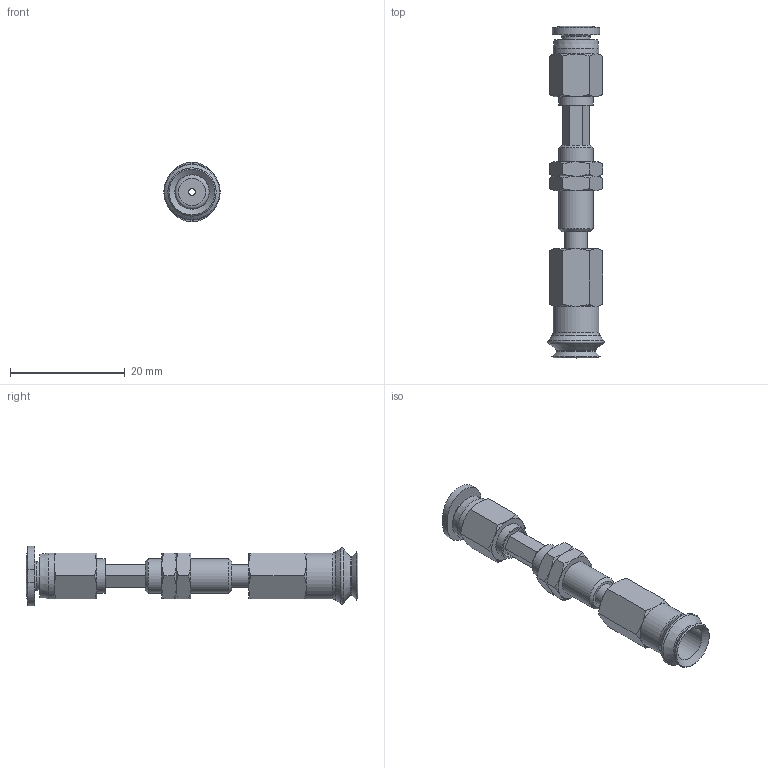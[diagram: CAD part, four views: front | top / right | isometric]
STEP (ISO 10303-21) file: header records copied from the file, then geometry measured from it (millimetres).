
FILE_DESCRIPTION(('STEP AP203'),'1');
FILE_NAME('-O.stp','2025-08-27T07:22:48',(' '),(' '),'Spatial InterOp 3D',' ',' ');
FILE_SCHEMA(('CONFIG_CONTROL_DESIGN'));
Length unit declared in the file: millimetre
Products named in the file (7): BNABPJTS-8-3-※-O; ADAPTER; NAPCTS-7-3-MBODY; NUT-NAPJ-8-3-s; NAPJTS-8-3-FBODY; BPJG-8-※; PC-C_04-M3
Assembly tree (7 placements, depth 2):
  BNABPJTS-8-3-※-O
    ADAPTER
    NAPCTS-7-3-MBODY
    NUT-NAPJ-8-3-s  x2
    NAPJTS-8-3-FBODY
    BPJG-8-※
    PC-C_04-M3
Bounding box: 9.8 x 57.77 x 10.4 mm (x, y, z)
Volume: 1533.4 mm3; surface area: 3037.9 mm2
Topology: 6 solids, 8 shells, 165 faces, 340 edges, 201 vertices
Faces by surface type: cone 65, plane 62, cylinder 22, torus 9, bspline 4, revolution 3
Full cylindrical faces by diameter (mm): 1.2 x2, 2.459 x1, 2.5 x2, 3 x1, 4 x4, 4.9 x1, 5.188 x2, 6 x4, 6.1 x1, 8 x2
Entity records: 4140 total; most frequent: CARTESIAN_POINT 1118, DIRECTION 561, ORIENTED_EDGE 478, AXIS2_PLACEMENT_3D 252, EDGE_CURVE 240, EDGE_LOOP 207, VERTEX_POINT 165, FACE_OUTER_BOUND 110
